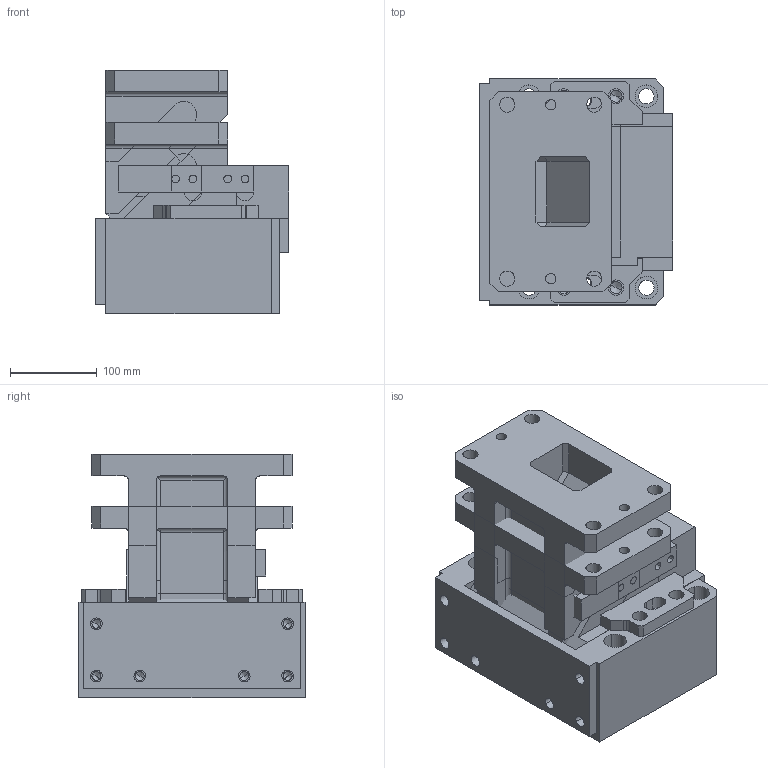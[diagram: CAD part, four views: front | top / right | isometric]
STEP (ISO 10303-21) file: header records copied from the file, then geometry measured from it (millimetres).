
FILE_DESCRIPTION(('CATIA V5 STEP','CAx-IF Rec.Pracs.--- Model Styling and Organization---1.4--- 2014-01-23','CAx-IF Rec.Pracs.---3D Tessellated Data Validation Properties---0.5---2014-09-14'),'2;1');
FILE_NAME('H:\_COMPRESS_2\2016.11.00.150.060.1.2__CM.stp','2020-11-18T12:53:12+00:00',('${USER}'),('AUDI AG, ${GROUP}'),'CATIA Version 5-6 Release 2018 SP3 HF27','CATIA V5 STEP AP242','none');
FILE_SCHEMA(('AP242_MANAGED_MODEL_BASED_3D_ENGINEERING_MIM_LF {1 0 10303 442 1 1 4}'));
Length unit declared in the file: millimetre
Products named in the file (1): 2016.11.00.150.060.1.2__CM
Bounding box: 222 x 260 x 280 mm (x, y, z)
Volume: 11621422.9 mm3; surface area: 904743.7 mm2
Topology: 4 solids, 4 shells, 522 faces, 1335 edges, 850 vertices
Faces by surface type: plane 309, cylinder 179, cone 28, sphere 4, bspline 2
Entity records: 14892 total; most frequent: CARTESIAN_POINT 2891, ORIENTED_EDGE 2616, DIRECTION 2055, EDGE_CURVE 1308, VECTOR 911, LINE 911, VERTEX_POINT 846, AXIS2_PLACEMENT_3D 750
